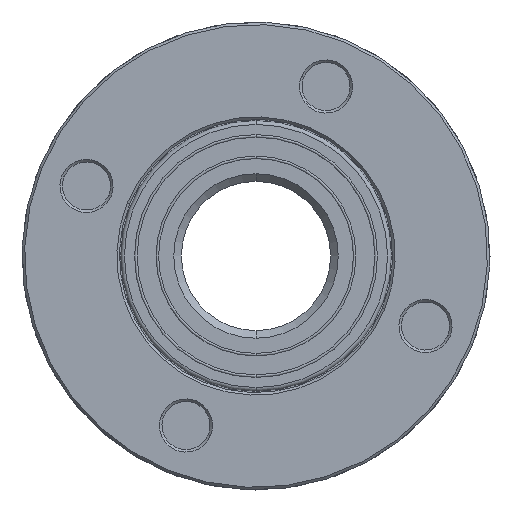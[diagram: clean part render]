
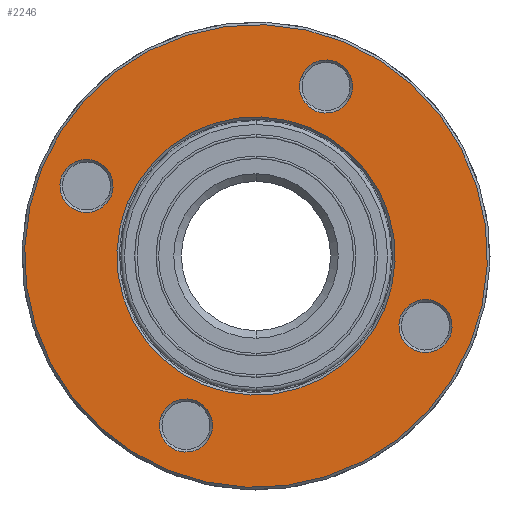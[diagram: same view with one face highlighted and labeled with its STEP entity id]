
A CAD part, left-side view. The second image highlights one B-rep face of the part: STEP entity #2246.
In plain terms, the highlighted planar face has unit normal (-1, 0, 0) as drawn and (1, 0, 0) by its records, which use the part's own axes.
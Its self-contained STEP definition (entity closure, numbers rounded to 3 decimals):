
#42 = ORIENTED_EDGE ( 'NONE', *, *, #3093, .T. ) ;
#89 = AXIS2_PLACEMENT_3D ( 'NONE', #1642, #2995, #295 ) ;
#115 = CARTESIAN_POINT ( 'NONE',  ( 15., 91.5, 0. ) ) ;
#122 = CARTESIAN_POINT ( 'NONE',  ( 15., 0., 0. ) ) ;
#128 = CARTESIAN_POINT ( 'NONE',  ( 15., 72.5, 0. ) ) ;
#136 = DIRECTION ( 'NONE',  ( -1., 0., 0. ) ) ;
#172 = CARTESIAN_POINT ( 'NONE',  ( 15., 72.5, -10.5 ) ) ;
#188 = DIRECTION ( 'NONE',  ( -1., 0., 0. ) ) ;
#208 = AXIS2_PLACEMENT_3D ( 'NONE', #1274, #188, #3485 ) ;
#228 = FACE_BOUND ( 'NONE', #3320, .T. ) ;
#244 = VERTEX_POINT ( 'NONE', #3359 ) ;
#247 = DIRECTION ( 'NONE',  ( -1., 0., 0. ) ) ;
#261 = CIRCLE ( 'NONE', #262, 91.5 ) ;
#262 = AXIS2_PLACEMENT_3D ( 'NONE', #122, #3141, #1494 ) ;
#272 = CIRCLE ( 'NONE', #208, 91.5 ) ;
#291 = AXIS2_PLACEMENT_3D ( 'NONE', #3304, #2162, #557 ) ;
#295 = DIRECTION ( 'NONE',  ( 0., 0., 1. ) ) ;
#336 = ORIENTED_EDGE ( 'NONE', *, *, #1976, .T. ) ;
#428 = DIRECTION ( 'NONE',  ( -1., 0., 0. ) ) ;
#505 = ORIENTED_EDGE ( 'NONE', *, *, #2159, .T. ) ;
#523 = FACE_BOUND ( 'NONE', #2714, .T. ) ;
#525 = EDGE_CURVE ( 'NONE', #798, #708, #1650, .T. ) ;
#528 = CARTESIAN_POINT ( 'NONE',  ( 15., 72.5, 10.5 ) ) ;
#544 = CARTESIAN_POINT ( 'NONE',  ( 15., 72.5, 0. ) ) ;
#557 = DIRECTION ( 'NONE',  ( 0., 0., 1. ) ) ;
#595 = CARTESIAN_POINT ( 'NONE',  ( 15., -72.5, 10.5 ) ) ;
#705 = AXIS2_PLACEMENT_3D ( 'NONE', #2566, #136, #2038 ) ;
#708 = VERTEX_POINT ( 'NONE', #172 ) ;
#710 = VERTEX_POINT ( 'NONE', #1814 ) ;
#744 = FACE_BOUND ( 'NONE', #2654, .T. ) ;
#768 = AXIS2_PLACEMENT_3D ( 'NONE', #2842, #2250, #3363 ) ;
#781 = FACE_OUTER_BOUND ( 'NONE', #1313, .T. ) ;
#797 = EDGE_LOOP ( 'NONE', ( #505, #3357 ) ) ;
#798 = VERTEX_POINT ( 'NONE', #528 ) ;
#888 = ORIENTED_EDGE ( 'NONE', *, *, #1398, .T. ) ;
#893 = DIRECTION ( 'NONE',  ( -1., 0., 0. ) ) ;
#915 = PLANE ( 'NONE',  #2463 ) ;
#927 = AXIS2_PLACEMENT_3D ( 'NONE', #2277, #428, #2311 ) ;
#935 = DIRECTION ( 'NONE',  ( 0., 0., 1. ) ) ;
#983 = DIRECTION ( 'NONE',  ( -1., 0., 0. ) ) ;
#984 = CIRCLE ( 'NONE', #291, 55. ) ;
#1049 = EDGE_LOOP ( 'NONE', ( #1489, #3402 ) ) ;
#1225 = EDGE_CURVE ( 'NONE', #3369, #2924, #2018, .T. ) ;
#1257 = AXIS2_PLACEMENT_3D ( 'NONE', #544, #2680, #3202 ) ;
#1274 = CARTESIAN_POINT ( 'NONE',  ( 15., 0., 0. ) ) ;
#1313 = EDGE_LOOP ( 'NONE', ( #1414, #2376 ) ) ;
#1398 = EDGE_CURVE ( 'NONE', #2365, #710, #1872, .T. ) ;
#1414 = ORIENTED_EDGE ( 'NONE', *, *, #1799, .F. ) ;
#1440 = CARTESIAN_POINT ( 'NONE',  ( 15., 0., -55. ) ) ;
#1489 = ORIENTED_EDGE ( 'NONE', *, *, #3401, .T. ) ;
#1494 = DIRECTION ( 'NONE',  ( 0., 0., 1. ) ) ;
#1500 = VERTEX_POINT ( 'NONE', #595 ) ;
#1548 = CARTESIAN_POINT ( 'NONE',  ( 15., 0., 72.5 ) ) ;
#1617 = CIRCLE ( 'NONE', #705, 55. ) ;
#1642 = CARTESIAN_POINT ( 'NONE',  ( 15., 0., -72.5 ) ) ;
#1650 = CIRCLE ( 'NONE', #3120, 10.5 ) ;
#1651 = EDGE_CURVE ( 'NONE', #1839, #2908, #1617, .T. ) ;
#1774 = AXIS2_PLACEMENT_3D ( 'NONE', #3360, #2689, #2659 ) ;
#1781 = CARTESIAN_POINT ( 'NONE',  ( 15., 0., -83. ) ) ;
#1788 = CIRCLE ( 'NONE', #768, 10.5 ) ;
#1799 = EDGE_CURVE ( 'NONE', #2475, #2232, #272, .T. ) ;
#1814 = CARTESIAN_POINT ( 'NONE',  ( 15., 0., -62. ) ) ;
#1827 = CARTESIAN_POINT ( 'NONE',  ( 15., 0., 55. ) ) ;
#1839 = VERTEX_POINT ( 'NONE', #1827 ) ;
#1848 = DIRECTION ( 'NONE',  ( 0., 0., 1. ) ) ;
#1872 = CIRCLE ( 'NONE', #89, 10.5 ) ;
#1901 = EDGE_CURVE ( 'NONE', #2908, #1839, #984, .T. ) ;
#1976 = EDGE_CURVE ( 'NONE', #2924, #3369, #3244, .T. ) ;
#2018 = CIRCLE ( 'NONE', #3249, 10.5 ) ;
#2038 = DIRECTION ( 'NONE',  ( 0., 0., 1. ) ) ;
#2159 = EDGE_CURVE ( 'NONE', #244, #1500, #1788, .T. ) ;
#2162 = DIRECTION ( 'NONE',  ( -1., 0., 0. ) ) ;
#2225 = FACE_BOUND ( 'NONE', #1049, .T. ) ;
#2232 = VERTEX_POINT ( 'NONE', #2563 ) ;
#2246 = ADVANCED_FACE ( 'NONE', ( #228, #2645, #523, #2225, #744, #781 ), #915, .F. ) ;
#2250 = DIRECTION ( 'NONE',  ( -1., 0., 0. ) ) ;
#2277 = CARTESIAN_POINT ( 'NONE',  ( 15., 0., -72.5 ) ) ;
#2311 = DIRECTION ( 'NONE',  ( 0., 0., 1. ) ) ;
#2365 = VERTEX_POINT ( 'NONE', #1781 ) ;
#2376 = ORIENTED_EDGE ( 'NONE', *, *, #3055, .F. ) ;
#2394 = EDGE_CURVE ( 'NONE', #1500, #244, #3389, .T. ) ;
#2408 = ORIENTED_EDGE ( 'NONE', *, *, #1225, .T. ) ;
#2415 = CARTESIAN_POINT ( 'NONE',  ( 15., 0., 62. ) ) ;
#2463 = AXIS2_PLACEMENT_3D ( 'NONE', #115, #893, #3080 ) ;
#2475 = VERTEX_POINT ( 'NONE', #3001 ) ;
#2563 = CARTESIAN_POINT ( 'NONE',  ( 15., 0., -91.5 ) ) ;
#2566 = CARTESIAN_POINT ( 'NONE',  ( 15., 0., 0. ) ) ;
#2644 = ORIENTED_EDGE ( 'NONE', *, *, #1651, .T. ) ;
#2645 = FACE_BOUND ( 'NONE', #797, .T. ) ;
#2654 = EDGE_LOOP ( 'NONE', ( #3229, #2644 ) ) ;
#2659 = DIRECTION ( 'NONE',  ( 0., 0., 1. ) ) ;
#2675 = CIRCLE ( 'NONE', #927, 10.5 ) ;
#2680 = DIRECTION ( 'NONE',  ( -1., 0., 0. ) ) ;
#2689 = DIRECTION ( 'NONE',  ( -1., 0., 0. ) ) ;
#2714 = EDGE_LOOP ( 'NONE', ( #888, #42 ) ) ;
#2765 = AXIS2_PLACEMENT_3D ( 'NONE', #2943, #247, #1848 ) ;
#2842 = CARTESIAN_POINT ( 'NONE',  ( 15., -72.5, 0. ) ) ;
#2908 = VERTEX_POINT ( 'NONE', #1440 ) ;
#2924 = VERTEX_POINT ( 'NONE', #3455 ) ;
#2943 = CARTESIAN_POINT ( 'NONE',  ( 15., 0., 72.5 ) ) ;
#2995 = DIRECTION ( 'NONE',  ( -1., 0., 0. ) ) ;
#3001 = CARTESIAN_POINT ( 'NONE',  ( 15., 0., 91.5 ) ) ;
#3055 = EDGE_CURVE ( 'NONE', #2232, #2475, #261, .T. ) ;
#3064 = CIRCLE ( 'NONE', #1257, 10.5 ) ;
#3080 = DIRECTION ( 'NONE',  ( 0., 0., 1. ) ) ;
#3093 = EDGE_CURVE ( 'NONE', #710, #2365, #2675, .T. ) ;
#3120 = AXIS2_PLACEMENT_3D ( 'NONE', #128, #3368, #935 ) ;
#3141 = DIRECTION ( 'NONE',  ( -1., 0., 0. ) ) ;
#3202 = DIRECTION ( 'NONE',  ( 0., 0., 1. ) ) ;
#3229 = ORIENTED_EDGE ( 'NONE', *, *, #1901, .T. ) ;
#3244 = CIRCLE ( 'NONE', #2765, 10.5 ) ;
#3249 = AXIS2_PLACEMENT_3D ( 'NONE', #1548, #983, #3450 ) ;
#3304 = CARTESIAN_POINT ( 'NONE',  ( 15., 0., 0. ) ) ;
#3320 = EDGE_LOOP ( 'NONE', ( #2408, #336 ) ) ;
#3357 = ORIENTED_EDGE ( 'NONE', *, *, #2394, .T. ) ;
#3359 = CARTESIAN_POINT ( 'NONE',  ( 15., -72.5, -10.5 ) ) ;
#3360 = CARTESIAN_POINT ( 'NONE',  ( 15., -72.5, 0. ) ) ;
#3363 = DIRECTION ( 'NONE',  ( 0., 0., 1. ) ) ;
#3368 = DIRECTION ( 'NONE',  ( -1., 0., 0. ) ) ;
#3369 = VERTEX_POINT ( 'NONE', #2415 ) ;
#3389 = CIRCLE ( 'NONE', #1774, 10.5 ) ;
#3401 = EDGE_CURVE ( 'NONE', #708, #798, #3064, .T. ) ;
#3402 = ORIENTED_EDGE ( 'NONE', *, *, #525, .T. ) ;
#3450 = DIRECTION ( 'NONE',  ( 0., 0., 1. ) ) ;
#3455 = CARTESIAN_POINT ( 'NONE',  ( 15., 0., 83. ) ) ;
#3485 = DIRECTION ( 'NONE',  ( 0., 0., 1. ) ) ;
